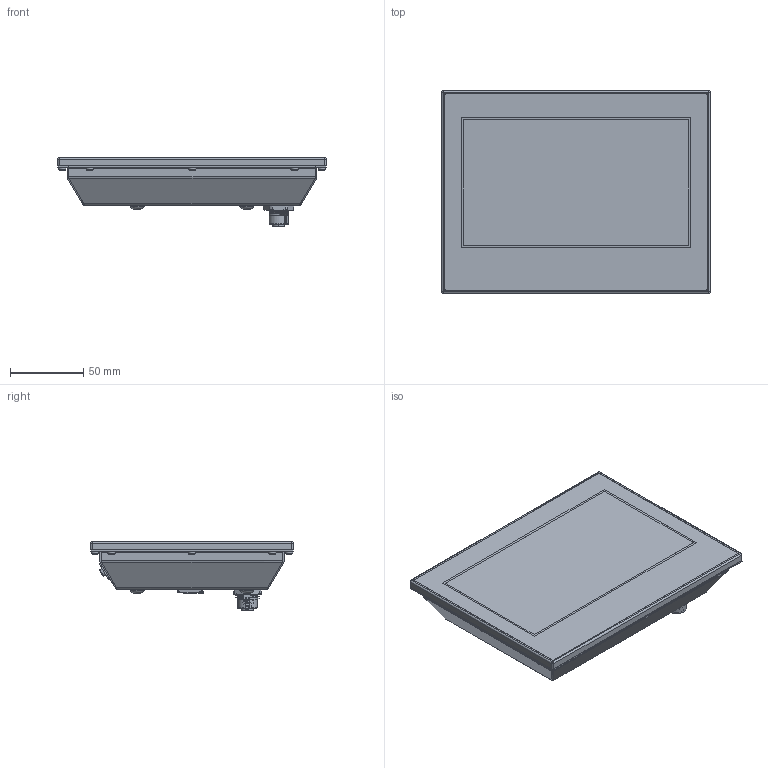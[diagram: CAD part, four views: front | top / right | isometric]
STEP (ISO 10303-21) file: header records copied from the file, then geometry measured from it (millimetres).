
FILE_DESCRIPTION (( 'STEP AP214' ), '1' );
FILE_NAME ('SUPPORT ETT7321 01-230-7321.STEP', '2021-02-22T11:53:01', ( 'Windows-Benutzer' ), ( '' ), 'SwSTEP 2.0', 'SolidWorks 2018', '' );
FILE_SCHEMA (( 'AUTOMOTIVE_DESIGN' ));
Length unit declared in the file: millimetre
Products named in the file (17): 3030301205 Linsenflanschkopf ISO7380-2 M5x8 10.9 ISK zink-nickel schwarz_standard; 1407503; s_m2_5_0; B-M5-1_2; 1407503.stp; ZM2048-3783-10 Gehäuse ETT7321; Display 7z IP65 Bediengerät_ohne Touchtail; ZM2101-3787-10 Front 7z IP65 Bediengerät; ZM2101-5104-10 Batteriedeckel 7z Bediengerät; 415371.stp; SUPPORT ETT7321 01-230-7321; 3030262198 Montageband 4mm ETT7321; USB-Abdeckung 3030201646-2 (RAL7035 lichtgrau) 3030201647-2 (RAL7024 grafitgrau)_mit Stiftdichtung; 3030301107-1 Flachkopfschraube ISO 7045 (DIN 7985) M2,5 x4-Z7 - 4.8-verzinkt-schwarz-Torx; 3030301154 Senkschraube M3 x 6 TX10 - 4.8 DELTA SEAL BLACK_Vereinfacht (Ohne Gewinde)
Assembly tree (39 placements, depth 4):
  SUPPORT ETT7321 01-230-7321
    Display 7z IP65 Bediengerät_ohne Touchtail
    1407503
      1407503.stp
        1407503.stp
        415371.stp
    3030301107-1 Flachkopfschraube ISO 7045 (DIN 7985) M2,5 x4-Z7 - 4.8-verzinkt-schwarz-Torx  x14
    3030301154 Senkschraube M3 x 6 TX10 - 4.8 DELTA SEAL BLACK_Vereinfacht (Ohne Gewinde)  x4
    3030301205 Linsenflanschkopf ISO7380-2 M5x8 10.9 ISK zink-nickel schwarz_standard  x4
    ZM2101-3787-10 Front 7z IP65 Bediengerät
    3030262198 Montageband 4mm ETT7321
    ZM2048-3783-10 Gehäuse ETT7321
      ZM2048-3783-10 Gehäuse ETT7321
      B-M5-1_2  x4
      s_m2_5_0  x2
    ZM2101-5104-10 Batteriedeckel 7z Bediengerät
    USB-Abdeckung 3030201646-2 (RAL7035 lichtgrau) 3030201647-2 (RAL7024 grafitgrau)_mit Stiftdichtung
Bounding box: 183.6 x 138.81 x 46.95 mm (x, y, z)
Volume: 195191.1 mm3; surface area: 163468.9 mm2
Topology: 39 solids, 39 shells, 1709 faces, 4193 edges, 2609 vertices
Faces by surface type: plane 676, cylinder 588, cone 166, bspline 152, torus 94, sphere 33
Full cylindrical faces by diameter (mm): 1.8 x1, 2 x14, 2.013 x2, 2.05 x12, 2.5 x15, 2.7 x1, 2.8 x2, 2.9 x10, 3 x4, 4.134 x4, 4.22 x2, 4.25 x2, 4.976 x2, 5 x18, 5.5 x4, 6.02 x4, 6.186 x4, 6.3 x2, 6.38 x4, 6.4 x4, 7.875 x4, 8.75 x4, 11.8 x4
Entity records: 43435 total; most frequent: CARTESIAN_POINT 15952, ORIENTED_EDGE 5410, DIRECTION 5028, EDGE_CURVE 2705, AXIS2_PLACEMENT_3D 1882, VERTEX_POINT 1724, EDGE_LOOP 1347, VECTOR 1264
